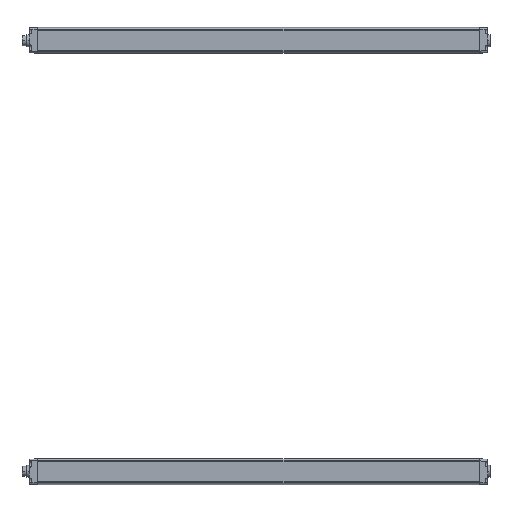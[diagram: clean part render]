
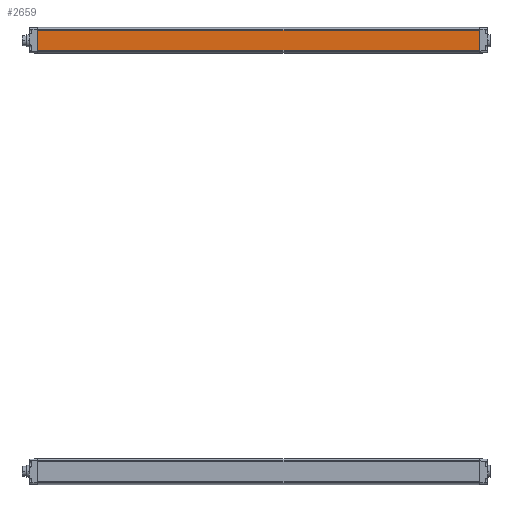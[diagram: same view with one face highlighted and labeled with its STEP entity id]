
A CAD part, front view. The second image highlights one B-rep face of the part: STEP entity #2659.
In plain terms, the highlighted planar face has unit normal (0, -1, 0).
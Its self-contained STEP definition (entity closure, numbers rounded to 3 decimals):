
#154=DIRECTION('',(0.,0.,-1.));
#155=VECTOR('',#154,24.);
#156=CARTESIAN_POINT('',(0.,-15.15,12.));
#157=LINE('',#156,#155);
#412=DIRECTION('',(0.,0.,-1.));
#413=VECTOR('',#412,24.);
#414=CARTESIAN_POINT('',(540.,-15.15,12.));
#415=LINE('',#414,#413);
#880=DIRECTION('',(1.,0.,0.));
#881=VECTOR('',#880,540.);
#882=CARTESIAN_POINT('',(0.,-15.15,12.));
#883=LINE('',#882,#881);
#884=DIRECTION('',(1.,0.,0.));
#885=VECTOR('',#884,540.);
#886=CARTESIAN_POINT('',(0.,-15.15,-12.));
#887=LINE('',#886,#885);
#1298=CARTESIAN_POINT('',(0.,-15.15,12.));
#1299=CARTESIAN_POINT('',(540.,-15.15,12.));
#1300=VERTEX_POINT('',#1298);
#1301=VERTEX_POINT('',#1299);
#1310=CARTESIAN_POINT('',(0.,-15.15,-12.));
#1311=CARTESIAN_POINT('',(540.,-15.15,-12.));
#1312=VERTEX_POINT('',#1310);
#1313=VERTEX_POINT('',#1311);
#2646=CARTESIAN_POINT('',(0.,-15.15,15.65));
#2647=DIRECTION('',(0.,-1.,0.));
#2648=DIRECTION('',(0.,0.,-1.));
#2649=AXIS2_PLACEMENT_3D('',#2646,#2647,#2648);
#2650=PLANE('',#2649);
#2652=ORIENTED_EDGE('',*,*,#2651,.T.);
#2653=ORIENTED_EDGE('',*,*,#1938,.T.);
#2655=ORIENTED_EDGE('',*,*,#2654,.F.);
#2656=ORIENTED_EDGE('',*,*,#1671,.F.);
#2657=EDGE_LOOP('',(#2652,#2653,#2655,#2656));
#2658=FACE_OUTER_BOUND('',#2657,.F.);
#2659=ADVANCED_FACE('',(#2658),#2650,.T.);
#1671=EDGE_CURVE('',#1300,#1312,#157,.T.);
#1938=EDGE_CURVE('',#1301,#1313,#415,.T.);
#2651=EDGE_CURVE('',#1300,#1301,#883,.T.);
#2654=EDGE_CURVE('',#1312,#1313,#887,.T.);
